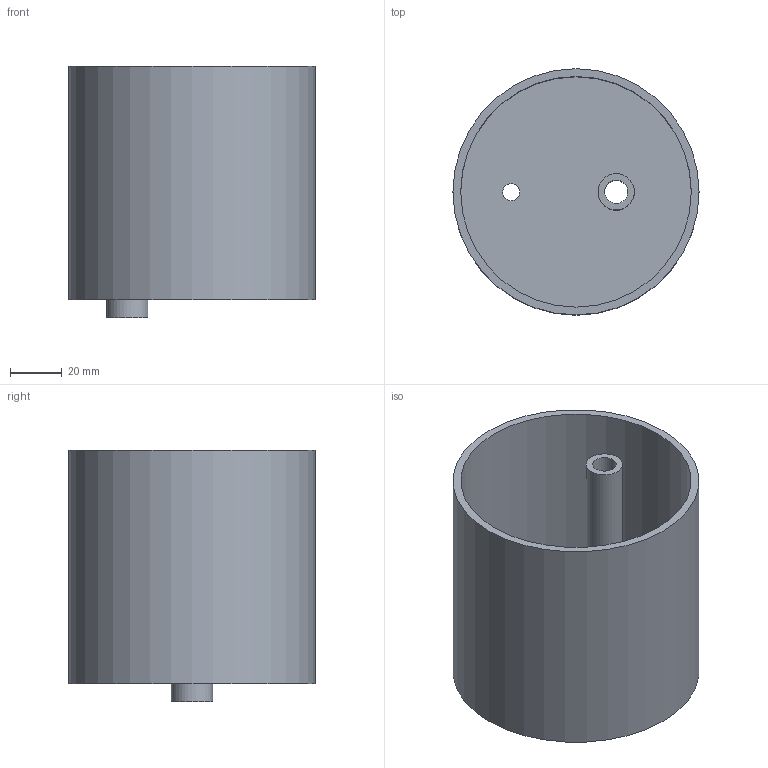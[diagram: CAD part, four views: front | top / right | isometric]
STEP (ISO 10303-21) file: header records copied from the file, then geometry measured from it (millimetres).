
FILE_DESCRIPTION(('Open CASCADE Model'),'2;1');
FILE_NAME('Open CASCADE Shape Model','2026-10-21T10:33:18',('Author'),( 'Open CASCADE'),'Open CASCADE STEP processor 7.9','Open CASCADE 7.9' ,'Unknown');
FILE_SCHEMA(('AUTOMOTIVE_DESIGN { 1 0 10303 214 1 1 1 1 }'));
Length unit declared in the file: millimetre
Products named in the file (1): Open CASCADE STEP translator 7.9 18
Bounding box: 95 x 95 x 97 mm (x, y, z)
Volume: 105443.2 mm3; surface area: 72096 mm2
Topology: 1 solids, 1 shells, 11 faces, 18 edges, 12 vertices
Faces by surface type: cylinder 6, plane 5
Full cylindrical faces by diameter (mm): 6.5 x1, 9 x1, 14 x1, 16 x1, 89 x1, 95 x1
Entity records: 534 total; most frequent: CARTESIAN_POINT 114, DIRECTION 84, ORIENTED_EDGE 36, PCURVE 36, DEFINITIONAL_REPRESENTATION 36, LINE 30, VECTOR 30, AXIS2_PLACEMENT_3D 24
